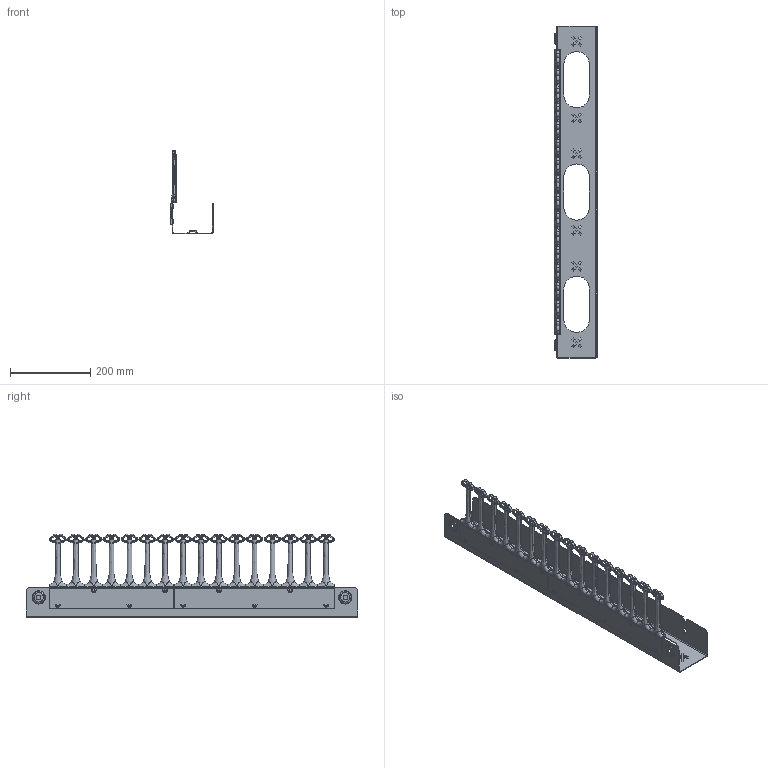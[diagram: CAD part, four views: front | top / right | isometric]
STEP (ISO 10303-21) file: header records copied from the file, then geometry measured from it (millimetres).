
FILE_DESCRIPTION (( 'STEP AP203' ), '1' );
FILE_NAME ('e19c20u.STEP', '2012-10-15T13:59:10', ( 'User' ), ( 'Pentair Inc' ), 'SwSTEP 2.0', 'SolidWorks 2010', '' );
FILE_SCHEMA (( 'CONFIG_CONTROL_DESIGN' ));
Products named in the file (4): e19c20u; 89093587_20U CBL MGR; 87927989_9U; 87927990_87927990
Assembly tree (3 placements, depth 2):
  e19c20u
    87927990_87927990
    87927989_9U
    89093587_20U CBL MGR
Bounding box: 104.78 x 825.5 x 207.78 mm (x, y, z)
Volume: 630925.1 mm3; surface area: 591925 mm2
Topology: 3 solids, 3 shells, 6169 faces, 16307 edges, 9932 vertices
Faces by surface type: cylinder 1872, plane 1792, bspline 1769, torus 542, sphere 131, cone 63
Entity records: 562833 total; most frequent: CARTESIAN_POINT 429850, ORIENTED_EDGE 32000, DIRECTION 21302, EDGE_CURVE 16000, VERTEX_POINT 9932, AXIS2_PLACEMENT_3D 7581, EDGE_LOOP 6360, FACE_OUTER_BOUND 6169
